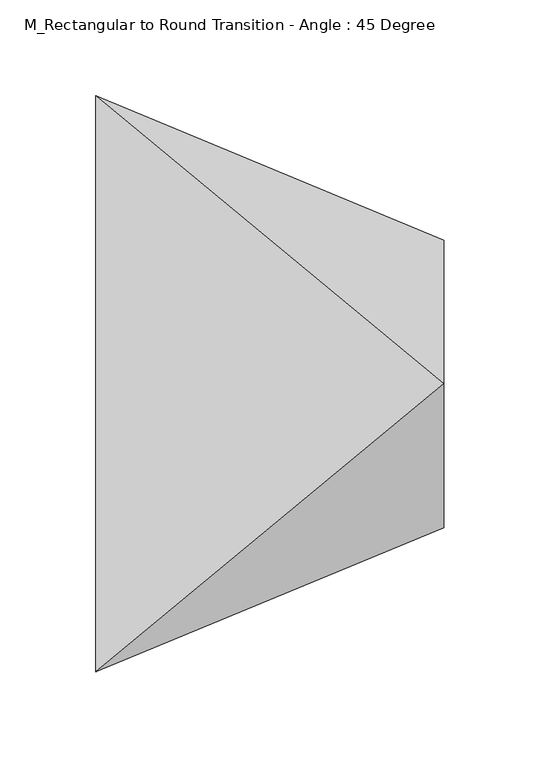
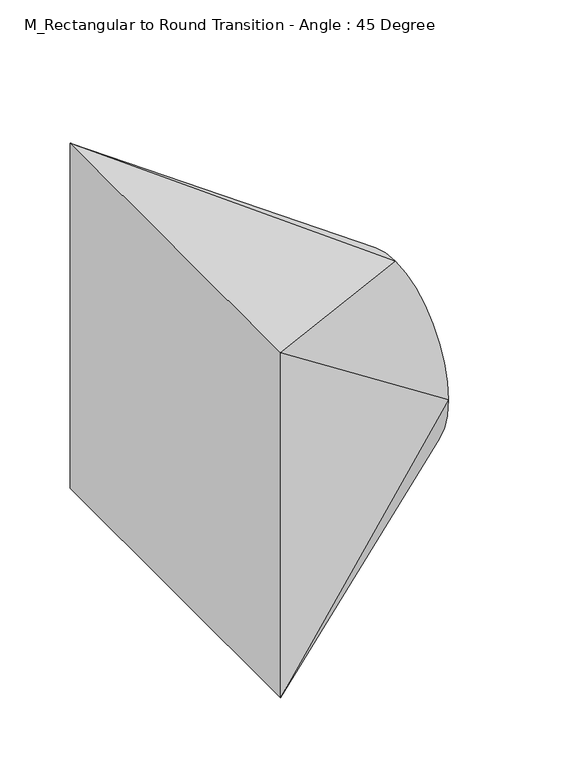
"""IFC4 building model written with IfcOpenShell, lengths in millimetres: duct fitting geometry, M_Rectangular to Round Transition - Angle : 45 Degree."""

from ifc_helpers import new_model, si_unit, frame, origin, place, context, project, spatial, circle_curve, source, transform, mapped, element, save
from ifc_brep_helpers import plane_surface, spline_surface, advanced_brep


def m_rectangular_to_round_transition_angle_45_degree_bcd8e40a(model_context):
    return source(origin(), model_context, "Body", "AdvancedBrep", [
        advanced_brep(
        [(0.0, -150.0, -150.0), (0.0, -150.0, 150.0), (0.0, 150.0, 150.0), (0.0, 150.0, -150.0), (181.0660172, -75.0, 0.002107), (181.0660172, 0.0, -74.997893), (181.0660172, 75.0, 0.002107), (181.0660172, 0.0, 75.002107)],
        [
            (0, 1),
            (1, 2),
            (2, 3),
            (3, 0),
            (4, 5, circle_curve(frame((181.0660172, 0.0, 0.002107), z_axis=(1.0, 0.0, 0.0), x_axis=(0.0, -1.0, 0.0)), 75.0)),
            (5, 6, circle_curve(frame((181.0660172, 0.0, 0.002107), z_axis=(1.0, 0.0, 0.0), x_axis=(0.0, -1.0, 0.0)), 75.0)),
            (6, 7, circle_curve(frame((181.0660172, 0.0, 0.002107), z_axis=(1.0, 0.0, 0.0), x_axis=(0.0, -1.0, 0.0)), 75.0)),
            (7, 4, circle_curve(frame((181.0660172, 0.0, 0.002107), z_axis=(1.0, 0.0, 0.0), x_axis=(0.0, -1.0, 0.0)), 75.0)),
            (0, 4),
            (4, 1),
            (7, 1),
            (7, 2),
            (6, 2),
            (6, 3),
            (5, 3),
            (5, 0),
        ],
        [
            plane_surface(frame((0.0, 0.0, 0.0), z_axis=(-1.0, 0.0, 0.0), x_axis=(0.0, 1.0, 0.0))),
            plane_surface(frame((181.0660172, 0.0, 0.002107), z_axis=(1.0, 0.0, 0.0), x_axis=(0.0, 1.0, 0.0))),
            plane_surface(frame((181.0660172, -75.0, 0.002107), z_axis=(0.38268343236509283, -0.9238795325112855, 0.0), x_axis=(0.0, 0.0, 1.0))),
            spline_surface(2, 1, [[(181.0660172, -75.0, 0.002107), (0.0, -150.0, 150.0)], [(181.0660172, -75.0, 75.002107), (0.0, -150.0, 150.0)], [(181.0660172, 0.0, 75.002107), (0.0, -150.0, 150.0)]], [3, 3], [2, 2], [0.0, 1.0], [0.0, 1.0], weights=[[1.0, 1.0], [0.7071067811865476, 0.7071067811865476], [1.0, 1.0]]),
            plane_surface(frame((181.0660172, 0.0, 75.002107), z_axis=(0.38267425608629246, 0.0, 0.9238833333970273), x_axis=(0.0, 1.0, 0.0))),
            spline_surface(2, 1, [[(181.0660172, 0.0, 75.002107), (0.0, 150.0, 150.0)], [(181.0660172, 75.0, 75.002107), (0.0, 150.0, 150.0)], [(181.0660172, 75.0, 0.002107), (0.0, 150.0, 150.0)]], [3, 3], [2, 2], [0.0, 1.0], [0.0, 1.0], weights=[[1.0, 1.0], [0.7071067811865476, 0.7071067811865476], [1.0, 1.0]]),
            plane_surface(frame((181.0660172, 75.0, 0.002107), z_axis=(0.3826834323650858, 0.9238795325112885, 0.0), x_axis=(0.0, 0.0, -1.0))),
            spline_surface(2, 1, [[(181.0660172, 75.0, 0.002107), (0.0, 150.0, -150.0)], [(181.0660172, 75.0, -74.997893), (0.0, 150.0, -150.0)], [(181.0660172, 0.0, -74.997893), (0.0, 150.0, -150.0)]], [3, 3], [2, 2], [0.0, 1.0], [0.0, 1.0], weights=[[1.0, 1.0], [0.7071067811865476, 0.7071067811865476], [1.0, 1.0]]),
            plane_surface(frame((181.0660172, 0.0, -74.997893), z_axis=(0.38269260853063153, 0.0, -0.9238757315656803), x_axis=(0.0, -1.0, 0.0))),
            spline_surface(2, 1, [[(181.0660172, 0.0, -74.997893), (0.0, -150.0, -150.0)], [(181.0660172, -75.0, -74.997893), (0.0, -150.0, -150.0)], [(181.0660172, -75.0, 0.002107), (0.0, -150.0, -150.0)]], [3, 3], [2, 2], [0.0, 1.0], [0.0, 1.0], weights=[[1.0, 1.0], [0.7071067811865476, 0.7071067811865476], [1.0, 1.0]]),
        ],
        [
            (0, [[1, 2, 3, 4]]),
            (1, [[5, 6, 7, 8]]),
            (2, [[-1, 9, 10]]),
            (3, [[-8, 11, -10]]),
            (4, [[-2, -11, 12]]),
            (5, [[-7, 13, -12]]),
            (6, [[-3, -13, 14]]),
            (7, [[-6, 15, -14]]),
            (8, [[-4, -15, 16]]),
            (9, [[-5, -9, -16]]),
        ],
    ),
        advanced_brep(
        [(0.0, -150.0, -150.0), (0.0, -150.0, 150.0), (0.0, 150.0, 150.0), (0.0, 150.0, -150.0), (181.0660172, -75.0, 0.002107), (181.0660172, 0.0, -74.997893), (181.0660172, 75.0, 0.002107), (181.0660172, 0.0, 75.002107)],
        [
            (0, 1),
            (1, 2),
            (2, 3),
            (3, 0),
            (4, 5, circle_curve(frame((181.0660172, 0.0, 0.002107), z_axis=(1.0, 0.0, 0.0), x_axis=(0.0, -1.0, 0.0)), 75.0)),
            (5, 6, circle_curve(frame((181.0660172, 0.0, 0.002107), z_axis=(1.0, 0.0, 0.0), x_axis=(0.0, -1.0, 0.0)), 75.0)),
            (6, 7, circle_curve(frame((181.0660172, 0.0, 0.002107), z_axis=(1.0, 0.0, 0.0), x_axis=(0.0, -1.0, 0.0)), 75.0)),
            (7, 4, circle_curve(frame((181.0660172, 0.0, 0.002107), z_axis=(1.0, 0.0, 0.0), x_axis=(0.0, -1.0, 0.0)), 75.0)),
            (0, 4),
            (4, 1),
            (7, 1),
            (7, 2),
            (6, 2),
            (6, 3),
            (5, 3),
            (5, 0),
        ],
        [
            plane_surface(frame((0.0, 0.0, 0.0), z_axis=(-1.0, 0.0, 0.0), x_axis=(0.0, 1.0, 0.0))),
            plane_surface(frame((181.0660172, 0.0, 0.002107), z_axis=(1.0, 0.0, 0.0), x_axis=(0.0, 1.0, 0.0))),
            plane_surface(frame((181.0660172, -75.0, 0.002107), z_axis=(0.3826834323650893, -0.9238795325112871, 0.0), x_axis=(0.0, 0.0, 1.0))),
            spline_surface(2, 1, [[(181.0660172, -75.0, 0.002107), (0.0, -150.0, 150.0)], [(181.0660172, -75.0, 75.002107), (0.0, -150.0, 150.0)], [(181.0660172, 0.0, 75.002107), (0.0, -150.0, 150.0)]], [3, 3], [2, 2], [0.0, 1.0], [0.0, 1.0], weights=[[1.0, 1.0], [0.7071067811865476, 0.7071067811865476], [1.0, 1.0]]),
            plane_surface(frame((181.0660172, 0.0, 75.002107), z_axis=(0.38267425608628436, 0.0, 0.9238833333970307), x_axis=(0.0, 1.0, 0.0))),
            spline_surface(2, 1, [[(181.0660172, 0.0, 75.002107), (0.0, 150.0, 150.0)], [(181.0660172, 75.0, 75.002107), (0.0, 150.0, 150.0)], [(181.0660172, 75.0, 0.002107), (0.0, 150.0, 150.0)]], [3, 3], [2, 2], [0.0, 1.0], [0.0, 1.0], weights=[[1.0, 1.0], [0.7071067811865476, 0.7071067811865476], [1.0, 1.0]]),
            plane_surface(frame((181.0660172, 75.0, 0.002107), z_axis=(0.3826834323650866, 0.9238795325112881, 0.0), x_axis=(0.0, 0.0, -1.0))),
            spline_surface(2, 1, [[(181.0660172, 75.0, 0.002107), (0.0, 150.0, -150.0)], [(181.0660172, 75.0, -74.997893), (0.0, 150.0, -150.0)], [(181.0660172, 0.0, -74.997893), (0.0, 150.0, -150.0)]], [3, 3], [2, 2], [0.0, 1.0], [0.0, 1.0], weights=[[1.0, 1.0], [0.7071067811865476, 0.7071067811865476], [1.0, 1.0]]),
            plane_surface(frame((181.0660172, 0.0, -74.997893), z_axis=(0.382692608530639, 0.0, -0.9238757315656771), x_axis=(0.0, -1.0, 0.0))),
            spline_surface(2, 1, [[(181.0660172, 0.0, -74.997893), (0.0, -150.0, -150.0)], [(181.0660172, -75.0, -74.997893), (0.0, -150.0, -150.0)], [(181.0660172, -75.0, 0.002107), (0.0, -150.0, -150.0)]], [3, 3], [2, 2], [0.0, 1.0], [0.0, 1.0], weights=[[1.0, 1.0], [0.7071067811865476, 0.7071067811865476], [1.0, 1.0]]),
        ],
        [
            (0, [[1, 2, 3, 4]]),
            (1, [[5, 6, 7, 8]]),
            (2, [[-1, 9, 10]]),
            (3, [[-8, 11, -10]]),
            (4, [[-2, -11, 12]]),
            (5, [[-7, 13, -12]]),
            (6, [[-3, -13, 14]]),
            (7, [[-6, 15, -14]]),
            (8, [[-4, -15, 16]]),
            (9, [[-5, -9, -16]]),
        ],
    ),
        advanced_brep(
        [(181.0660172, 0.0, 75.002107), (181.0660172, -75.0, 0.002107), (181.0660172, 0.0, -74.997893), (181.0660172, 75.0, 0.002107), (0.0, -150.0, 150.0), (0.0, 150.0, 150.0), (0.0, 150.0, -150.0), (0.0, -150.0, -150.0)],
        [
            (0, 1, circle_curve(frame((181.0660172, 0.0, 0.002107), z_axis=(1.0, 0.0, 0.0), x_axis=(0.0, 1.0, 0.0)), 75.0)),
            (1, 2, circle_curve(frame((181.0660172, 0.0, 0.002107), z_axis=(1.0, 0.0, 0.0), x_axis=(0.0, 1.0, 0.0)), 75.0)),
            (2, 3, circle_curve(frame((181.0660172, 0.0, 0.002107), z_axis=(1.0, 0.0, 0.0), x_axis=(0.0, 1.0, 0.0)), 75.0)),
            (3, 0, circle_curve(frame((181.0660172, 0.0, 0.002107), z_axis=(1.0, 0.0, 0.0), x_axis=(0.0, 1.0, 0.0)), 75.0)),
            (4, 5),
            (5, 6),
            (6, 7),
            (7, 4),
            (0, 4),
            (4, 1),
            (7, 1),
            (7, 2),
            (6, 2),
            (6, 3),
            (5, 3),
            (5, 0),
        ],
        [
            plane_surface(frame((181.0660172, 0.0, 0.002107), z_axis=(1.0, 0.0, 0.0), x_axis=(0.0, 0.0, -1.0))),
            plane_surface(frame((0.0, 0.0, 0.0), z_axis=(-1.0, 0.0, 0.0), x_axis=(0.0, 0.0, -1.0))),
            spline_surface(2, 1, [[(0.0, -150.0, 150.0), (181.0660172, 0.0, 75.002107)], [(0.0, -150.0, 150.0), (181.0660172, -75.0, 75.002107)], [(0.0, -150.0, 150.0), (181.0660172, -75.0, 0.002107)]], [3, 3], [2, 2], [0.0, 1.0], [0.0, 1.0], weights=[[1.0, 1.0], [0.7071067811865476, 0.7071067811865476], [1.0, 1.0]]),
            plane_surface(frame((0.0, -150.0, 0.0), z_axis=(0.3826834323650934, -0.9238795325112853, 0.0), x_axis=(0.0, 0.0, -1.0))),
            spline_surface(2, 1, [[(0.0, -150.0, -150.0), (181.0660172, -75.0, 0.002107)], [(0.0, -150.0, -150.0), (181.0660172, -75.0, -74.997893)], [(0.0, -150.0, -150.0), (181.0660172, 0.0, -74.997893)]], [3, 3], [2, 2], [0.0, 1.0], [0.0, 1.0], weights=[[1.0, 1.0], [0.7071067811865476, 0.7071067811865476], [1.0, 1.0]]),
            plane_surface(frame((0.0, 0.0, -150.0), z_axis=(0.382692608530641, 0.0, -0.9238757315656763), x_axis=(0.0, 1.0, 0.0))),
            spline_surface(2, 1, [[(0.0, 150.0, -150.0), (181.0660172, 0.0, -74.997893)], [(0.0, 150.0, -150.0), (181.0660172, 75.0, -74.997893)], [(0.0, 150.0, -150.0), (181.0660172, 75.0, 0.002107)]], [3, 3], [2, 2], [0.0, 1.0], [0.0, 1.0], weights=[[1.0, 1.0], [0.7071067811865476, 0.7071067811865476], [1.0, 1.0]]),
            plane_surface(frame((0.0, 150.0, 0.0), z_axis=(0.3826834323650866, 0.9238795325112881, 0.0), x_axis=(0.0, 0.0, 1.0))),
            spline_surface(2, 1, [[(0.0, 150.0, 150.0), (181.0660172, 75.0, 0.002107)], [(0.0, 150.0, 150.0), (181.0660172, 75.0, 75.002107)], [(0.0, 150.0, 150.0), (181.0660172, 0.0, 75.002107)]], [3, 3], [2, 2], [0.0, 1.0], [0.0, 1.0], weights=[[1.0, 1.0], [0.7071067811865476, 0.7071067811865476], [1.0, 1.0]]),
            plane_surface(frame((0.0, 0.0, 150.0), z_axis=(0.38267425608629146, 0.0, 0.9238833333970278), x_axis=(0.0, -1.0, 0.0))),
        ],
        [
            (0, [[1, 2, 3, 4]]),
            (1, [[5, 6, 7, 8]]),
            (2, [[-1, 9, 10]]),
            (3, [[-8, 11, -10]]),
            (4, [[-2, -11, 12]]),
            (5, [[-7, 13, -12]]),
            (6, [[-3, -13, 14]]),
            (7, [[-6, 15, -14]]),
            (8, [[-4, -15, 16]]),
            (9, [[-5, -9, -16]]),
        ],
    ),
    ])


if __name__ == "__main__":
    model = new_model("IFC4")
    model_context = context("Model", 3, world=origin())
    ifc_project = project(units=[si_unit("LENGTHUNIT", "METRE", prefix="MILLI")], contexts=[model_context])
    site = spatial("IfcSite", under=ifc_project)
    building = spatial("IfcBuilding", under=site)
    placement = place(None, origin())
    m_rectangular_to_round_transition_angle_45_degree_shape = m_rectangular_to_round_transition_angle_45_degree_bcd8e40a(model_context)
    element("IfcDuctFitting", 1, ObjectType="M_Rectangular to Round Transition - Angle : 45 Degree", at=placement, inside=building, context=model_context, shape_type="MappedRepresentation", body=[
        mapped(m_rectangular_to_round_transition_angle_45_degree_shape, transform((0.0, 0.0, 0.0), x_axis=(1.0, 0.0, 0.0), y_axis=(0.0, 1.0, 0.0), z_axis=(0.0, 0.0, 1.0))),
    ])
    save(model, "model.ifc")
